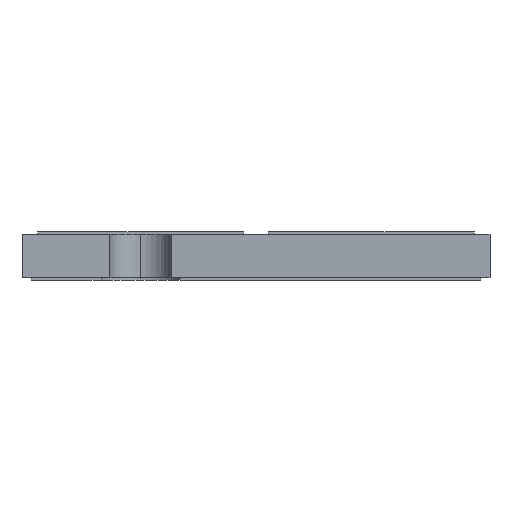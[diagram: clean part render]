
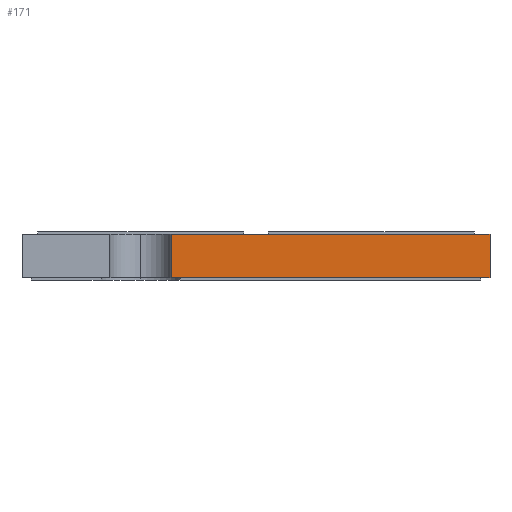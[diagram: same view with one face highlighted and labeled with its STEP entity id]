
A CAD part, left-side view. The second image highlights one B-rep face of the part: STEP entity #171.
In plain terms, the highlighted planar face has unit normal (-1, 0, 0).
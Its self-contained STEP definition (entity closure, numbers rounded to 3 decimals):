
#171 = ADVANCED_FACE ( 'NONE', ( #15310 ), #5833, .T. ) ;
#598 = DIRECTION ( 'NONE',  ( 0., 0., 1. ) ) ;
#700 = DIRECTION ( 'NONE',  ( 0., -1., 0. ) ) ;
#1982 = VECTOR ( 'NONE', #18263, 1000. ) ;
#2360 = VERTEX_POINT ( 'NONE', #9313 ) ;
#2477 = VECTOR ( 'NONE', #700, 1000. ) ;
#2514 = LINE ( 'NONE', #7560, #13412 ) ;
#2753 = VERTEX_POINT ( 'NONE', #19546 ) ;
#4901 = CARTESIAN_POINT ( 'NONE',  ( -27.3, -3.75, -0.7 ) ) ;
#5753 = EDGE_CURVE ( 'NONE', #8973, #2360, #18635, .T. ) ;
#5833 = PLANE ( 'NONE',  #19600 ) ;
#6683 = VERTEX_POINT ( 'NONE', #11309 ) ;
#7560 = CARTESIAN_POINT ( 'NONE',  ( -27.3, 3.75, 0. ) ) ;
#8912 = DIRECTION ( 'NONE',  ( -1., 0., 0. ) ) ;
#8973 = VERTEX_POINT ( 'NONE', #4901 ) ;
#9313 = CARTESIAN_POINT ( 'NONE',  ( -27.3, -3.75, 0. ) ) ;
#9489 = LINE ( 'NONE', #15177, #1982 ) ;
#10011 = CARTESIAN_POINT ( 'NONE',  ( -27.3, -3.75, -0.7 ) ) ;
#10512 = DIRECTION ( 'NONE',  ( 0., 0., 1. ) ) ;
#10543 = ORIENTED_EDGE ( 'NONE', *, *, #17018, .T. ) ;
#10782 = DIRECTION ( 'NONE',  ( 0., -1., 0. ) ) ;
#11309 = CARTESIAN_POINT ( 'NONE',  ( -27.3, 1.35, -0.7 ) ) ;
#11987 = CARTESIAN_POINT ( 'NONE',  ( -27.3, 3.75, -0.7 ) ) ;
#12865 = ORIENTED_EDGE ( 'NONE', *, *, #16850, .F. ) ;
#13412 = VECTOR ( 'NONE', #10782, 1000. ) ;
#14246 = EDGE_LOOP ( 'NONE', ( #15663, #10543, #17267, #12865 ) ) ;
#14389 = CARTESIAN_POINT ( 'NONE',  ( -27.3, 3.75, -0.7 ) ) ;
#15177 = CARTESIAN_POINT ( 'NONE',  ( -27.3, 1.35, 0. ) ) ;
#15310 = FACE_OUTER_BOUND ( 'NONE', #14246, .T. ) ;
#15663 = ORIENTED_EDGE ( 'NONE', *, *, #17320, .F. ) ;
#16850 = EDGE_CURVE ( 'NONE', #2753, #2360, #2514, .T. ) ;
#17018 = EDGE_CURVE ( 'NONE', #6683, #8973, #17498, .T. ) ;
#17267 = ORIENTED_EDGE ( 'NONE', *, *, #5753, .T. ) ;
#17320 = EDGE_CURVE ( 'NONE', #6683, #2753, #9489, .T. ) ;
#17498 = LINE ( 'NONE', #14389, #2477 ) ;
#18263 = DIRECTION ( 'NONE',  ( 0., 0., 1. ) ) ;
#18635 = LINE ( 'NONE', #10011, #19376 ) ;
#19376 = VECTOR ( 'NONE', #598, 1000. ) ;
#19546 = CARTESIAN_POINT ( 'NONE',  ( -27.3, 1.35, 0. ) ) ;
#19600 = AXIS2_PLACEMENT_3D ( 'NONE', #11987, #8912, #10512 ) ;
